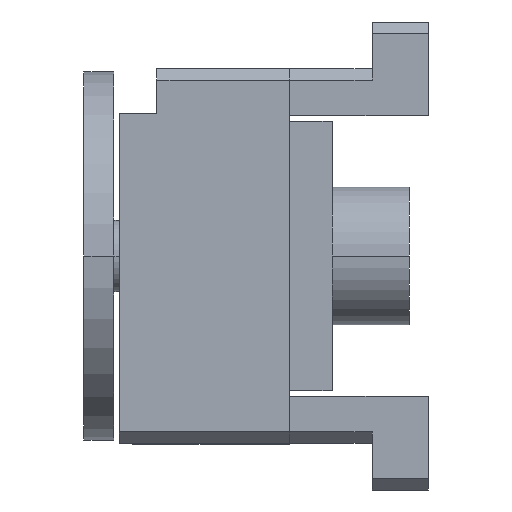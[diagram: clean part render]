
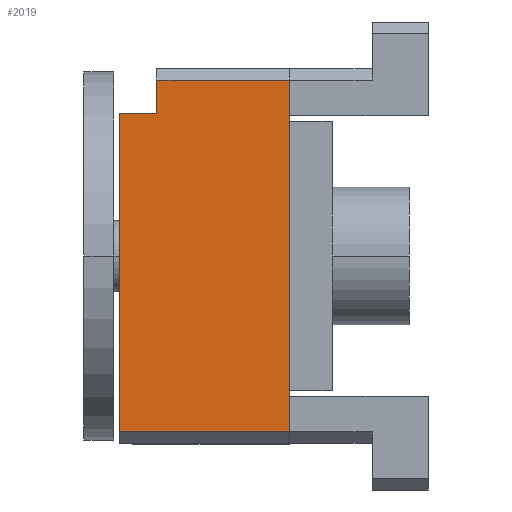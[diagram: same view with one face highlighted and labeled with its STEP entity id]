
A CAD part, left-side view. The second image highlights one B-rep face of the part: STEP entity #2019.
In plain terms, the highlighted planar face has unit normal (-1, 0, 0).
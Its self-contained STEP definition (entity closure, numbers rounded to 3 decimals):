
#5=DIRECTION('',(0.,0.,1.));
#6=VECTOR('',#5,94.);
#7=CARTESIAN_POINT('',(-50.,-22.733,-47.));
#8=LINE('',#7,#6);
#143=DIRECTION('',(0.,0.,-1.));
#144=VECTOR('',#143,9.);
#145=CARTESIAN_POINT('',(-50.,12.733,47.));
#146=LINE('',#145,#144);
#147=DIRECTION('',(0.,-1.,0.));
#148=VECTOR('',#147,35.466);
#149=CARTESIAN_POINT('',(-50.,12.733,47.));
#150=LINE('',#149,#148);
#151=DIRECTION('',(0.,-1.,0.));
#152=VECTOR('',#151,45.466);
#153=CARTESIAN_POINT('',(-50.,22.733,-47.));
#154=LINE('',#153,#152);
#155=DIRECTION('',(0.,-1.,0.));
#156=VECTOR('',#155,10.);
#157=CARTESIAN_POINT('',(-50.,22.733,38.));
#158=LINE('',#157,#156);
#485=DIRECTION('',(0.,0.,1.));
#486=VECTOR('',#485,85.);
#487=CARTESIAN_POINT('',(-50.,22.733,-47.));
#488=LINE('',#487,#486);
#1411=CARTESIAN_POINT('',(-50.,-22.733,-47.));
#1413=VERTEX_POINT('',#1411);
#1417=CARTESIAN_POINT('',(-50.,22.733,-47.));
#1418=VERTEX_POINT('',#1417);
#1420=CARTESIAN_POINT('',(-50.,-22.733,47.));
#1422=VERTEX_POINT('',#1420);
#1775=CARTESIAN_POINT('',(-50.,22.733,38.));
#1777=VERTEX_POINT('',#1775);
#1787=CARTESIAN_POINT('',(-50.,12.733,47.));
#1788=CARTESIAN_POINT('',(-50.,12.733,38.));
#1789=VERTEX_POINT('',#1787);
#1790=VERTEX_POINT('',#1788);
#2003=CARTESIAN_POINT('',(-50.,-22.733,-50.));
#2004=DIRECTION('',(-1.,0.,0.));
#2005=DIRECTION('',(0.,0.,1.));
#2006=AXIS2_PLACEMENT_3D('',#2003,#2004,#2005);
#2007=PLANE('',#2006);
#2008=ORIENTED_EDGE('',*,*,#1977,.F.);
#2010=ORIENTED_EDGE('',*,*,#2009,.T.);
#2011=ORIENTED_EDGE('',*,*,#1822,.F.);
#2012=ORIENTED_EDGE('',*,*,#1879,.F.);
#2014=ORIENTED_EDGE('',*,*,#2013,.T.);
#2016=ORIENTED_EDGE('',*,*,#2015,.T.);
#2017=EDGE_LOOP('',(#2008,#2010,#2011,#2012,#2014,#2016));
#2018=FACE_OUTER_BOUND('',#2017,.F.);
#2019=ADVANCED_FACE('',(#2018),#2007,.T.);
#1822=EDGE_CURVE('',#1413,#1422,#8,.T.);
#1879=EDGE_CURVE('',#1418,#1413,#154,.T.);
#1977=EDGE_CURVE('',#1789,#1790,#146,.T.);
#2009=EDGE_CURVE('',#1789,#1422,#150,.T.);
#2013=EDGE_CURVE('',#1418,#1777,#488,.T.);
#2015=EDGE_CURVE('',#1777,#1790,#158,.T.);
